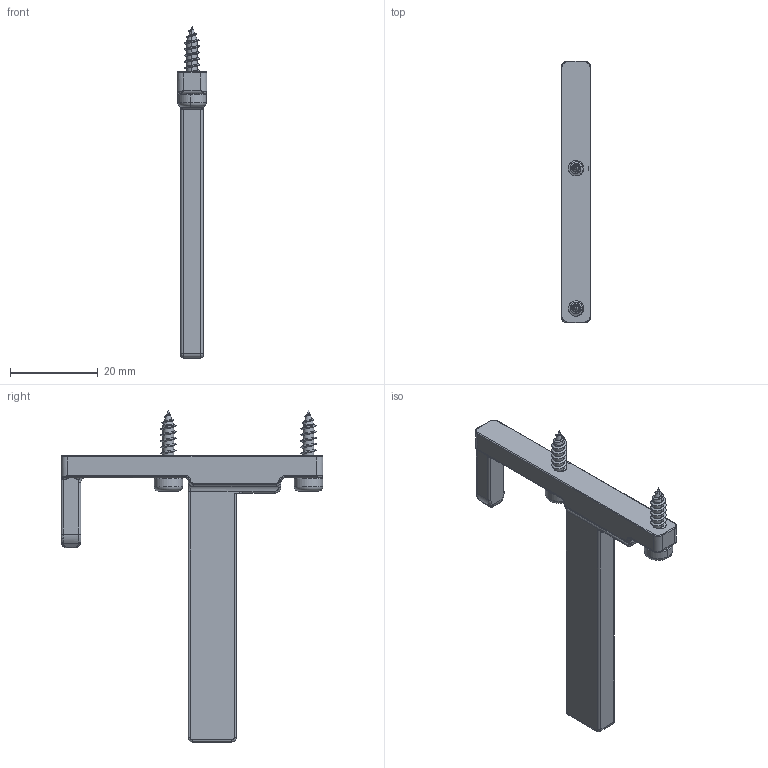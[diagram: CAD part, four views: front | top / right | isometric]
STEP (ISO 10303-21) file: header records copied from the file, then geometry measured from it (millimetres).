
FILE_DESCRIPTION (( 'STEP AP203' ), '1' );
FILE_NAME ('HT12012.STEP', '2021-03-30T07:28:51', ( 'Users' ), ( 'Microsoft' ), 'SwSTEP 2.0', 'SolidWorks 2018', '' );
FILE_SCHEMA (( 'CONFIG_CONTROL_DESIGN' ));
Length unit declared in the file: millimetre
Products named in the file (1): HT12012
Bounding box: 6.8 x 59.8 x 75.8 mm (x, y, z)
Volume: 6237.9 mm3; surface area: 3999.3 mm2
Topology: 1 solids, 1 shells, 329 faces, 837 edges, 502 vertices
Faces by surface type: plane 98, cylinder 85, bspline 70, torus 56, cone 14, sphere 6
Entity records: 14151 total; most frequent: CARTESIAN_POINT 6988, ORIENTED_EDGE 1652, DIRECTION 1300, EDGE_CURVE 826, AXIS2_PLACEMENT_3D 528, VERTEX_POINT 502, EDGE_LOOP 332, FACE_OUTER_BOUND 329
